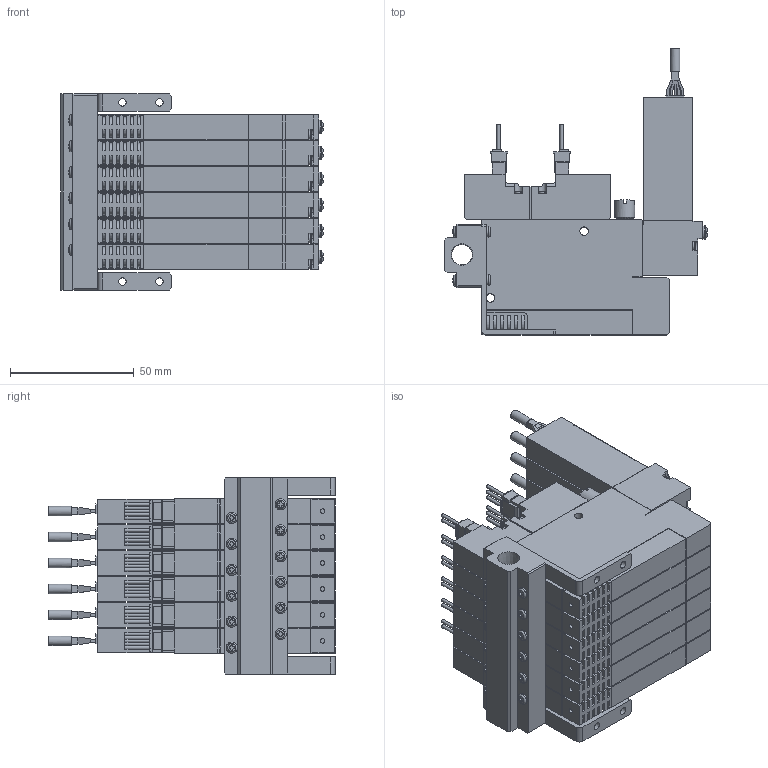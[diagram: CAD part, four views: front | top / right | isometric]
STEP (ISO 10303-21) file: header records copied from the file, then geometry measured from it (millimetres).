
FILE_DESCRIPTION(('STEP AP203'),'1');
FILE_NAME('5WS606_3D.stp','2024-09-04T23:09:53',(' '),(' '),'Spatial InterOp 3D',' ',' ');
FILE_SCHEMA(('CONFIG_CONTROL_DESIGN'));
Length unit declared in the file: millimetre
Products named in the file (5): BSC1M※※V9※5WS606; Solenoid valve W; Pressure Sensor V9; Unit-S; BaseMS60R
Assembly tree (19 placements, depth 2):
  BSC1M※※V9※5WS606
    Solenoid valve W  x6
    Pressure Sensor V9  x6
    Unit-S  x6
    BaseMS60R
Bounding box: 106.35 x 115.8 x 79.5 mm (x, y, z)
Volume: 356621.1 mm3; surface area: 141061.2 mm2
Topology: 19 solids, 19 shells, 3155 faces, 8655 edges, 5722 vertices
Faces by surface type: plane 2350, cylinder 705, sphere 34, torus 34, cone 32
Full cylindrical faces by diameter (mm): 1.4 x30, 1.8 x6, 2.5 x12, 3 x28, 3.5 x48, 3.8 x6, 4 x6, 4.134 x12, 4.5 x16, 5.5 x12, 7 x6, 7.7 x6, 8 x6, 8.422 x1
Entity records: 24282 total; most frequent: CARTESIAN_POINT 5364, DIRECTION 3788, ORIENTED_EDGE 3756, EDGE_CURVE 1878, LINE 1316, VECTOR 1316, VERTEX_POINT 1300, AXIS2_PLACEMENT_3D 1236
